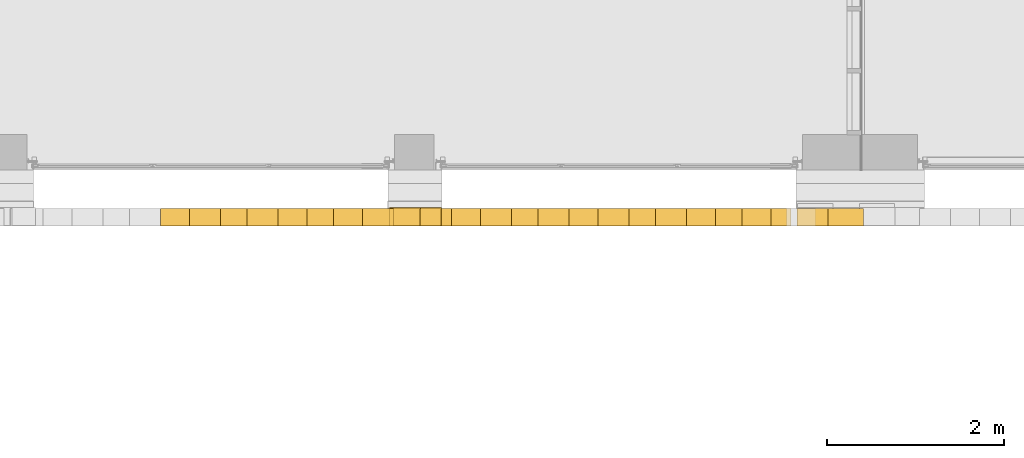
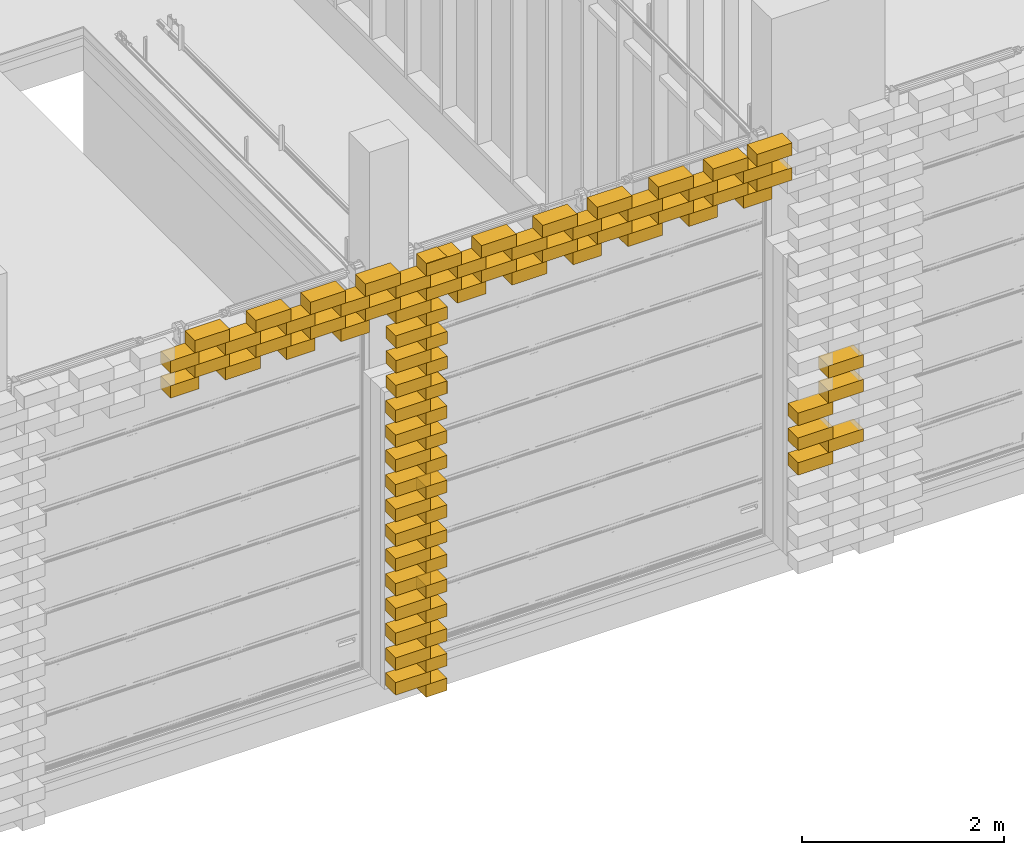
# One storey, part 54 of 62: 85 railings.
"""IFC2X3 building model written with IfcOpenShell, lengths in millimetres."""

from ifc_helpers import new_model, entity, si_unit, converted_unit, derived_unit, money_unit, direction, frame, origin_with_axes, place, context, subcontext, project, spatial, polyline, outline, extrude, material, type_object, element, save


model = new_model("IFC2X3")

# Units and contexts
model_context = context("Model", 3, precision=0.01, world=origin_with_axes(), true_north=direction((0.0, 1.0)))
body_context = subcontext(model_context, "Body", "Model", "MODEL_VIEW")
ifc_project = project(units=[si_unit("LENGTHUNIT", "METRE", prefix="MILLI"), si_unit("AREAUNIT", "SQUARE_METRE"), si_unit("VOLUMEUNIT", "CUBIC_METRE"), converted_unit("PLANEANGLEUNIT", "DEGREE", entity("IfcPlaneAngleMeasure", 0.0174532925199), si_unit("PLANEANGLEUNIT", "RADIAN"), dimensions=[0, 0, 0, 0, 0, 0, 0]), si_unit("SOLIDANGLEUNIT", "STERADIAN"), money_unit("EUR"), converted_unit("TIMEUNIT", "Year", entity("IfcTimeMeasure", 31556926.0), si_unit("TIMEUNIT", "SECOND"), dimensions=[0, 0, 1, 0, 0, 0, 0]), si_unit("MASSUNIT", "GRAM", prefix="KILO"), si_unit("THERMODYNAMICTEMPERATUREUNIT", "DEGREE_CELSIUS"), si_unit("LUMINOUSINTENSITYUNIT", "LUMEN"), si_unit("ENERGYUNIT", "JOULE", prefix="MEGA"), derived_unit("THERMALCONDUCTANCEUNIT", [(si_unit("POWERUNIT", "WATT"), 1), (si_unit("LENGTHUNIT", "METRE"), -1), (si_unit("THERMODYNAMICTEMPERATUREUNIT", "KELVIN"), -1)]), derived_unit("SPECIFICHEATCAPACITYUNIT", [(si_unit("ENERGYUNIT", "JOULE"), 1), (si_unit("MASSUNIT", "GRAM", prefix="KILO"), -1), (si_unit("THERMODYNAMICTEMPERATUREUNIT", "KELVIN"), -1)]), derived_unit("MASSDENSITYUNIT", [(si_unit("MASSUNIT", "GRAM", prefix="KILO"), 1), (si_unit("VOLUMEUNIT", "CUBIC_METRE"), -1)])], contexts=[model_context])

# Site, building, storey
site_placement = place(None, origin_with_axes())
site = spatial("IfcSite", under=ifc_project, at=site_placement, Name="KIRDE 14, ELVA", CompositionType="ELEMENT")
building_placement = place(site_placement, origin_with_axes())
building = spatial("IfcBuilding", under=site, at=building_placement, Name="PPA ja Päästeameti ühishoone", CompositionType="ELEMENT")
storey_placement = place(building_placement, origin_with_axes())
storey = spatial("IfcBuildingStorey", under=building, at=storey_placement, Name="Esimene korrus", CompositionType="ELEMENT", Elevation=0.0)

# Railings
ifc_material = material(Name="Air Space")
railing_type = type_object("IfcRailingType", Name="Air Space 200", PredefinedType="NOTDEFINED")
railing_1_placement = place(storey_placement, frame((33472.9681004, -431.000100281, 2150.0), z_axis=(0.0, 0.0, 1.0), x_axis=(1.0, -2.3283064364e-09, 0.0)))
element("IfcRailing", 1, at=railing_1_placement, inside=storey, type_object=railing_type, material=ifc_material, Name="plokk", PredefinedType="NOTDEFINED", context=body_context, shape_type="SweptSolid", body=[
    extrude(outline(polyline([(0.0, -200.0), (400.000000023, -200.0), (400.000000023, 0.0), (0.0, 0.0), (0.0, -200.0)])), origin_with_axes(), (0.0, 0.0, 1.0), 150.0),
])
railing_2_placement = place(storey_placement, frame((33122.9681001, -431.000100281, 1400.0), z_axis=(0.0, 0.0, 1.0), x_axis=(1.0, 0.0, 0.0)))
element("IfcRailing", 2, at=railing_2_placement, inside=storey, type_object=railing_type, material=ifc_material, Name="plokk", PredefinedType="NOTDEFINED", context=body_context, shape_type="SweptSolid", body=[
    extrude(outline(polyline([(0.0, -200.0), (400.000000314, -200.0), (400.000000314, 0.0), (0.0, 0.0), (0.0, -200.0)])), origin_with_axes(), (0.0, 0.0, 1.0), 150.0),
])
railing_3_placement = place(storey_placement, frame((33472.9681004, -431.000100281, 1850.0), z_axis=(0.0, 0.0, 1.0), x_axis=(1.0, -2.3283064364e-09, 0.0)))
element("IfcRailing", 3, at=railing_3_placement, inside=storey, type_object=railing_type, material=ifc_material, Name="plokk", PredefinedType="NOTDEFINED", context=body_context, shape_type="SweptSolid", body=[
    extrude(outline(polyline([(0.0, -200.0), (400.000000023, -200.0), (400.000000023, 0.0), (0.0, 0.0), (0.0, -200.0)])), origin_with_axes(), (0.0, 0.0, 1.0), 150.0),
])
railing_4_placement = place(storey_placement, frame((33122.9681001, -431.000100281, 1700.0), z_axis=(0.0, 0.0, 1.0), x_axis=(1.0, 0.0, 0.0)))
element("IfcRailing", 4, at=railing_4_placement, inside=storey, type_object=railing_type, material=ifc_material, Name="plokk", PredefinedType="NOTDEFINED", context=body_context, shape_type="SweptSolid", body=[
    extrude(outline(polyline([(0.0, -200.0), (400.000000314, -200.0), (400.000000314, 0.0), (0.0, 0.0), (0.0, -200.0)])), origin_with_axes(), (0.0, 0.0, 1.0), 150.0),
])
railing_5_placement = place(storey_placement, frame((28862.1727359, -431.000101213, 3200.0), z_axis=(0.0, 0.0, 1.0), x_axis=(1.0, 3.91312005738e-09, 0.0)))
element("IfcRailing", 5, at=railing_5_placement, inside=storey, type_object=railing_type, material=ifc_material, Name="plokk", PredefinedType="NOTDEFINED", context=body_context, shape_type="SweptSolid", body=[
    extrude(outline(polyline([(0.0, -200.0), (238.000000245, -200.0), (238.000000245, 0.0), (0.0, 0.0), (0.0, -200.0)])), origin_with_axes(), (0.0, 0.0, 1.0), 150.0),
])
railing_6_placement = place(storey_placement, frame((33472.9681004, -431.000100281, 1250.0), z_axis=(0.0, 0.0, 1.0), x_axis=(1.0, -2.3283064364e-09, 0.0)))
element("IfcRailing", 6, at=railing_6_placement, inside=storey, type_object=railing_type, material=ifc_material, Name="plokk", PredefinedType="NOTDEFINED", context=body_context, shape_type="SweptSolid", body=[
    extrude(outline(polyline([(0.0, -200.0), (400.000000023, -200.0), (400.000000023, 0.0), (0.0, 0.0), (0.0, -200.0)])), origin_with_axes(), (0.0, 0.0, 1.0), 150.0),
])
railing_7_placement = place(storey_placement, frame((33122.9681001, -431.000100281, 1100.0), z_axis=(0.0, 0.0, 1.0), x_axis=(1.0, 0.0, 0.0)))
element("IfcRailing", 7, at=railing_7_placement, inside=storey, type_object=railing_type, material=ifc_material, Name="plokk", PredefinedType="NOTDEFINED", context=body_context, shape_type="SweptSolid", body=[
    extrude(outline(polyline([(0.0, -200.0), (400.000000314, -200.0), (400.000000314, 0.0), (0.0, 0.0), (0.0, -200.0)])), origin_with_axes(), (0.0, 0.0, 1.0), 150.0),
])
railing_8_placement = place(storey_placement, frame((28512.1727357, -431.000101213, 50.0), z_axis=(0.0, 0.0, 1.0), x_axis=(1.0, -2.32830643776e-09, 0.0)))
element("IfcRailing", 8, at=railing_8_placement, inside=storey, type_object=railing_type, material=ifc_material, Name="plokk", PredefinedType="NOTDEFINED", context=body_context, shape_type="SweptSolid", body=[
    extrude(outline(polyline([(0.0, -200.0), (399.99999979, -200.0), (399.99999979, 0.0), (0.0, 0.0), (0.0, -200.0)])), origin_with_axes(), (0.0, 0.0, 1.0), 150.0),
])
railing_9_placement = place(storey_placement, frame((28865.7725499, -431.000101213, 4400.0), z_axis=(0.0, 0.0, 1.0), x_axis=(1.0, 3.91312005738e-09, 0.0)))
element("IfcRailing", 9, at=railing_9_placement, inside=storey, type_object=railing_type, material=ifc_material, Name="plokk", PredefinedType="NOTDEFINED", context=body_context, shape_type="SweptSolid", body=[
    extrude(outline(polyline([(0.0, -200.0), (238.000000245, -200.0), (238.000000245, 0.0), (0.0, 0.0), (0.0, -200.0)])), origin_with_axes(), (0.0, 0.0, 1.0), 150.0),
])
for number, where, z_axis, x_axis in (
    (10, (28518.7115339, -422.760599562, 4850.0), (0.0, 0.0, 1.0), (1.0, -2.32830643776e-09, 0.0)),
    (11, (28515.7725497, -431.000101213, 3950.0), (0.0, 0.0, 1.0), (1.0, -2.32830643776e-09, 0.0)),
    (12, (28515.7725497, -431.000101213, 3650.0), (0.0, 0.0, 1.0), (1.0, -2.32830643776e-09, 0.0)),
    (13, (28515.7725497, -431.000101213, 4250.0), (0.0, 0.0, 1.0), (1.0, -2.32830643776e-09, 0.0)),
):
    element("IfcRailing", number, at=place(storey_placement, frame(where, z_axis=z_axis, x_axis=x_axis)), inside=storey, type_object=railing_type, material=ifc_material, Name="plokk", PredefinedType="NOTDEFINED", context=body_context, shape_type="SweptSolid", body=[
        extrude(outline(polyline([(0.0, -200.0), (399.99999979, -200.0), (399.99999979, 0.0), (0.0, 0.0), (0.0, -200.0)])), origin_with_axes(), (0.0, 0.0, 1.0), 150.0),
    ])
for number, where, z_axis, x_axis in (
    (14, (28868.7115341, -422.760599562, 5000.0), (0.0, 0.0, 1.0), (1.0, 3.91312005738e-09, 0.0)),
    (15, (28865.7725499, -431.000101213, 3500.0), (0.0, 0.0, 1.0), (1.0, 3.91312005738e-09, 0.0)),
    (16, (28865.7725499, -431.000101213, 3800.0), (0.0, 0.0, 1.0), (1.0, 3.91312005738e-09, 0.0)),
    (17, (28865.7725499, -431.000101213, 4100.0), (0.0, 0.0, 1.0), (1.0, 3.91312005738e-09, 0.0)),
):
    element("IfcRailing", number, at=place(storey_placement, frame(where, z_axis=z_axis, x_axis=x_axis)), inside=storey, type_object=railing_type, material=ifc_material, Name="plokk", PredefinedType="NOTDEFINED", context=body_context, shape_type="SweptSolid", body=[
        extrude(outline(polyline([(0.0, -200.0), (238.000000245, -200.0), (238.000000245, 0.0), (0.0, 0.0), (0.0, -200.0)])), origin_with_axes(), (0.0, 0.0, 1.0), 150.0),
    ])
railing_10_placement = place(storey_placement, frame((32500.3254408, -431.000096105, 4850.0), z_axis=(0.0, 0.0, 1.0), x_axis=(1.0, 0.0, 0.0)))
element("IfcRailing", 18, at=railing_10_placement, inside=storey, type_object=railing_type, material=ifc_material, Name="plokk", PredefinedType="NOTDEFINED", context=body_context, shape_type="SweptSolid", body=[
    extrude(outline(polyline([(0.0, -200.0), (327.204635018, -200.0), (327.204635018, 0.0), (0.0, 0.0), (0.0, -200.0)])), origin_with_axes(), (0.0, 0.0, 1.0), 150.0),
])
railing_11_placement = place(storey_placement, frame((28515.7725497, -431.000101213, 4550.0), z_axis=(0.0, 0.0, 1.0), x_axis=(1.0, -2.32830643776e-09, 0.0)))
element("IfcRailing", 19, at=railing_11_placement, inside=storey, type_object=railing_type, material=ifc_material, Name="plokk", PredefinedType="NOTDEFINED", context=body_context, shape_type="SweptSolid", body=[
    extrude(outline(polyline([(0.0, -200.0), (399.99999979, -200.0), (399.99999979, 0.0), (0.0, 0.0), (0.0, -200.0)])), origin_with_axes(), (0.0, 0.0, 1.0), 150.0),
])
railing_12_placement = place(storey_placement, frame((26911.1208079, -431.000097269, 5000.0), z_axis=(0.0, 0.0, 1.0), x_axis=(1.0, -2.32830643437e-09, 0.0)))
element("IfcRailing", 20, at=railing_12_placement, inside=storey, type_object=railing_type, material=ifc_material, Name="plokk", PredefinedType="NOTDEFINED", context=body_context, shape_type="SweptSolid", body=[
    extrude(outline(polyline([(0.0, -200.0), (400.000000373, -200.0), (400.000000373, 0.0), (0.0, 0.0), (0.0, -200.0)])), origin_with_axes(), (0.0, 0.0, 1.0), 150.0),
])
railing_13_placement = place(storey_placement, frame((26561.1208084, -431.000099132, 4850.0), z_axis=(0.0, 0.0, 1.0), x_axis=(1.0, -2.32830643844e-09, 0.0)))
element("IfcRailing", 21, at=railing_13_placement, inside=storey, type_object=railing_type, material=ifc_material, Name="plokk", PredefinedType="NOTDEFINED", context=body_context, shape_type="SweptSolid", body=[
    extrude(outline(polyline([(0.0, -200.0), (399.999999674, -200.0), (399.999999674, 0.0), (0.0, 0.0), (0.0, -200.0)])), origin_with_axes(), (0.0, 0.0, 1.0), 150.0),
])
railing_14_placement = place(storey_placement, frame((27261.1208077, -431.0000982, 4550.0), z_axis=(0.0, 0.0, 1.0), x_axis=(1.0, 0.0, 0.0)))
element("IfcRailing", 22, at=railing_14_placement, inside=storey, type_object=railing_type, material=ifc_material, Name="plokk", PredefinedType="NOTDEFINED", context=body_context, shape_type="SweptSolid", body=[
    extrude(outline(polyline([(0.0, -200.0), (327.204635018, -200.0), (327.204635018, 0.0), (0.0, 0.0), (0.0, -200.0)])), origin_with_axes(), (0.0, 0.0, 1.0), 150.0),
])
railing_15_placement = place(storey_placement, frame((26911.1208079, -431.000097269, 4700.0), z_axis=(0.0, 0.0, 1.0), x_axis=(1.0, -2.32830643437e-09, 0.0)))
element("IfcRailing", 23, at=railing_15_placement, inside=storey, type_object=railing_type, material=ifc_material, Name="plokk", PredefinedType="NOTDEFINED", context=body_context, shape_type="SweptSolid", body=[
    extrude(outline(polyline([(0.0, -200.0), (400.000000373, -200.0), (400.000000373, 0.0), (0.0, 0.0), (0.0, -200.0)])), origin_with_axes(), (0.0, 0.0, 1.0), 150.0),
])
railing_16_placement = place(storey_placement, frame((26561.1208084, -431.000099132, 4550.0), z_axis=(0.0, 0.0, 1.0), x_axis=(1.0, -2.32830643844e-09, 0.0)))
element("IfcRailing", 24, at=railing_16_placement, inside=storey, type_object=railing_type, material=ifc_material, Name="plokk", PredefinedType="NOTDEFINED", context=body_context, shape_type="SweptSolid", body=[
    extrude(outline(polyline([(0.0, -200.0), (399.999999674, -200.0), (399.999999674, 0.0), (0.0, 0.0), (0.0, -200.0)])), origin_with_axes(), (0.0, 0.0, 1.0), 150.0),
])
railing_17_placement = place(storey_placement, frame((26211.1208067, -431.000095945, 5000.0), z_axis=(0.0, 0.0, 1.0), x_axis=(1.0, -2.32830643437e-09, 0.0)))
element("IfcRailing", 25, at=railing_17_placement, inside=storey, type_object=railing_type, material=ifc_material, Name="plokk", PredefinedType="NOTDEFINED", context=body_context, shape_type="SweptSolid", body=[
    extrude(outline(polyline([(0.0, -200.0), (400.000000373, -200.0), (400.000000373, 0.0), (0.0, 0.0), (0.0, -200.0)])), origin_with_axes(), (0.0, 0.0, 1.0), 150.0),
])
railing_18_placement = place(storey_placement, frame((25933.9161714, -431.000098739, 4850.0), z_axis=(0.0, 0.0, 1.0), x_axis=(1.0, 0.0, 0.0)))
element("IfcRailing", 26, at=railing_18_placement, inside=storey, type_object=railing_type, material=ifc_material, Name="plokk", PredefinedType="NOTDEFINED", context=body_context, shape_type="SweptSolid", body=[
    extrude(outline(polyline([(0.0, -200.0), (327.204635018, -200.0), (327.204635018, 0.0), (0.0, 0.0), (0.0, -200.0)])), origin_with_axes(), (0.0, 0.0, 1.0), 150.0),
])
railing_19_placement = place(storey_placement, frame((28862.1727359, -431.000101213, 2300.0), z_axis=(0.0, 0.0, 1.0), x_axis=(1.0, 3.91312005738e-09, 0.0)))
element("IfcRailing", 27, at=railing_19_placement, inside=storey, type_object=railing_type, material=ifc_material, Name="plokk", PredefinedType="NOTDEFINED", context=body_context, shape_type="SweptSolid", body=[
    extrude(outline(polyline([(0.0, -200.0), (238.000000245, -200.0), (238.000000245, 0.0), (0.0, 0.0), (0.0, -200.0)])), origin_with_axes(), (0.0, 0.0, 1.0), 150.0),
])
railing_20_placement = place(storey_placement, frame((27261.1208077, -431.0000982, 4850.0), z_axis=(0.0, 0.0, 1.0), x_axis=(1.0, 0.0, 0.0)))
element("IfcRailing", 28, at=railing_20_placement, inside=storey, type_object=railing_type, material=ifc_material, Name="plokk", PredefinedType="NOTDEFINED", context=body_context, shape_type="SweptSolid", body=[
    extrude(outline(polyline([(0.0, -200.0), (327.204635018, -200.0), (327.204635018, 0.0), (0.0, 0.0), (0.0, -200.0)])), origin_with_axes(), (0.0, 0.0, 1.0), 150.0),
])
railing_21_placement = place(storey_placement, frame((28862.1727359, -431.000101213, 500.0), z_axis=(0.0, 0.0, 1.0), x_axis=(1.0, 3.91312005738e-09, 0.0)))
element("IfcRailing", 29, at=railing_21_placement, inside=storey, type_object=railing_type, material=ifc_material, Name="plokk", PredefinedType="NOTDEFINED", context=body_context, shape_type="SweptSolid", body=[
    extrude(outline(polyline([(0.0, -200.0), (238.000000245, -200.0), (238.000000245, 0.0), (0.0, 0.0), (0.0, -200.0)])), origin_with_axes(), (0.0, 0.0, 1.0), 150.0),
])
railing_22_placement = place(storey_placement, frame((29845.9161702, -431.000097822, 4850.0), z_axis=(0.0, 0.0, 1.0), x_axis=(1.0, -2.32830643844e-09, 0.0)))
element("IfcRailing", 30, at=railing_22_placement, inside=storey, type_object=railing_type, material=ifc_material, Name="plokk", PredefinedType="NOTDEFINED", context=body_context, shape_type="SweptSolid", body=[
    extrude(outline(polyline([(0.0, -200.0), (399.999999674, -200.0), (399.999999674, 0.0), (0.0, 0.0), (0.0, -200.0)])), origin_with_axes(), (0.0, 0.0, 1.0), 150.0),
])
railing_23_placement = place(storey_placement, frame((27538.325443, -431.000095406, 4700.0), z_axis=(0.0, 0.0, 1.0), x_axis=(1.0, -2.32830643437e-09, 0.0)))
element("IfcRailing", 31, at=railing_23_placement, inside=storey, type_object=railing_type, material=ifc_material, Name="plokk", PredefinedType="NOTDEFINED", context=body_context, shape_type="SweptSolid", body=[
    extrude(outline(polyline([(0.0, -200.0), (400.000000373, -200.0), (400.000000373, 0.0), (0.0, 0.0), (0.0, -200.0)])), origin_with_axes(), (0.0, 0.0, 1.0), 150.0),
])
for number, where, z_axis, x_axis in (
    (32, (28862.1727359, -431.000101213, 800.0), (0.0, 0.0, 1.0), (1.0, 3.91312005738e-09, 0.0)),
    (33, (28862.1727359, -431.000101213, 3500.0), (0.0, 0.0, 1.0), (1.0, 3.91312005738e-09, 0.0)),
    (34, (28862.1727359, -431.000101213, 1100.0), (0.0, 0.0, 1.0), (1.0, 3.91312005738e-09, 0.0)),
):
    element("IfcRailing", number, at=place(storey_placement, frame(where, z_axis=z_axis, x_axis=x_axis)), inside=storey, type_object=railing_type, material=ifc_material, Name="plokk", PredefinedType="NOTDEFINED", context=body_context, shape_type="SweptSolid", body=[
        extrude(outline(polyline([(0.0, -200.0), (238.000000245, -200.0), (238.000000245, 0.0), (0.0, 0.0), (0.0, -200.0)])), origin_with_axes(), (0.0, 0.0, 1.0), 150.0),
    ])
for number, where, z_axis, x_axis in (
    (35, (28165.530078, -431.000095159, 5000.0), (0.0, 0.0, 1.0), (1.0, -2.32830643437e-09, 0.0)),
    (36, (28165.530078, -431.000095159, 4700.0), (0.0, 0.0, 1.0), (1.0, -2.32830643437e-09, 0.0)),
):
    element("IfcRailing", number, at=place(storey_placement, frame(where, z_axis=z_axis, x_axis=x_axis)), inside=storey, type_object=railing_type, material=ifc_material, Name="plokk", PredefinedType="NOTDEFINED", context=body_context, shape_type="SweptSolid", body=[
        extrude(outline(polyline([(0.0, -200.0), (400.000000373, -200.0), (400.000000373, 0.0), (0.0, 0.0), (0.0, -200.0)])), origin_with_axes(), (0.0, 0.0, 1.0), 150.0),
    ])
railing_24_placement = place(storey_placement, frame((27888.3254427, -431.000097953, 4850.0), z_axis=(0.0, 0.0, 1.0), x_axis=(1.0, 0.0, 0.0)))
element("IfcRailing", 37, at=railing_24_placement, inside=storey, type_object=railing_type, material=ifc_material, Name="plokk", PredefinedType="NOTDEFINED", context=body_context, shape_type="SweptSolid", body=[
    extrude(outline(polyline([(0.0, -200.0), (327.204635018, -200.0), (327.204635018, 0.0), (0.0, 0.0), (0.0, -200.0)])), origin_with_axes(), (0.0, 0.0, 1.0), 150.0),
])
for number, where, z_axis, x_axis in (
    (38, (28862.1727359, -431.000101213, 2600.0), (0.0, 0.0, 1.0), (1.0, 3.91312005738e-09, 0.0)),
    (39, (28862.1727359, -431.000101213, 2900.0), (0.0, 0.0, 1.0), (1.0, 3.91312005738e-09, 0.0)),
):
    element("IfcRailing", number, at=place(storey_placement, frame(where, z_axis=z_axis, x_axis=x_axis)), inside=storey, type_object=railing_type, material=ifc_material, Name="plokk", PredefinedType="NOTDEFINED", context=body_context, shape_type="SweptSolid", body=[
        extrude(outline(polyline([(0.0, -200.0), (238.000000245, -200.0), (238.000000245, 0.0), (0.0, 0.0), (0.0, -200.0)])), origin_with_axes(), (0.0, 0.0, 1.0), 150.0),
    ])
railing_25_placement = place(storey_placement, frame((25933.9161714, -431.000098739, 4550.0), z_axis=(0.0, 0.0, 1.0), x_axis=(1.0, 0.0, 0.0)))
element("IfcRailing", 40, at=railing_25_placement, inside=storey, type_object=railing_type, material=ifc_material, Name="plokk", PredefinedType="NOTDEFINED", context=body_context, shape_type="SweptSolid", body=[
    extrude(outline(polyline([(0.0, -200.0), (327.204635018, -200.0), (327.204635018, 0.0), (0.0, 0.0), (0.0, -200.0)])), origin_with_axes(), (0.0, 0.0, 1.0), 150.0),
])
for number, where, z_axis, x_axis in (
    (41, (31523.120806, -431.000095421, 5000.0), (0.0, 0.0, 1.0), (1.0, -2.32830643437e-09, 0.0)),
    (42, (26211.1208067, -431.000095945, 4700.0), (0.0, 0.0, 1.0), (1.0, -2.32830643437e-09, 0.0)),
):
    element("IfcRailing", number, at=place(storey_placement, frame(where, z_axis=z_axis, x_axis=x_axis)), inside=storey, type_object=railing_type, material=ifc_material, Name="plokk", PredefinedType="NOTDEFINED", context=body_context, shape_type="SweptSolid", body=[
        extrude(outline(polyline([(0.0, -200.0), (400.000000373, -200.0), (400.000000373, 0.0), (0.0, 0.0), (0.0, -200.0)])), origin_with_axes(), (0.0, 0.0, 1.0), 150.0),
    ])
for number, where, z_axis, x_axis in (
    (43, (28512.1727357, -431.000101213, 1250.0), (0.0, 0.0, 1.0), (1.0, -2.32830643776e-09, 0.0)),
    (44, (28512.1727357, -431.000101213, 1550.0), (0.0, 0.0, 1.0), (1.0, -2.32830643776e-09, 0.0)),
    (45, (28512.1727357, -431.000101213, 350.0), (0.0, 0.0, 1.0), (1.0, -2.32830643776e-09, 0.0)),
    (46, (28512.1727357, -431.000101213, 650.0), (0.0, 0.0, 1.0), (1.0, -2.32830643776e-09, 0.0)),
    (47, (28512.1727357, -431.000101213, 950.0), (0.0, 0.0, 1.0), (1.0, -2.32830643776e-09, 0.0)),
    (48, (28512.1727357, -431.000101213, 1850.0), (0.0, 0.0, 1.0), (1.0, -2.32830643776e-09, 0.0)),
    (49, (28512.1727357, -431.000101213, 2150.0), (0.0, 0.0, 1.0), (1.0, -2.32830643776e-09, 0.0)),
):
    element("IfcRailing", number, at=place(storey_placement, frame(where, z_axis=z_axis, x_axis=x_axis)), inside=storey, type_object=railing_type, material=ifc_material, Name="plokk", PredefinedType="NOTDEFINED", context=body_context, shape_type="SweptSolid", body=[
        extrude(outline(polyline([(0.0, -200.0), (399.99999979, -200.0), (399.99999979, 0.0), (0.0, 0.0), (0.0, -200.0)])), origin_with_axes(), (0.0, 0.0, 1.0), 150.0),
    ])
for number, where, z_axis, x_axis in (
    (50, (28862.1727359, -431.000101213, 1400.0), (0.0, 0.0, 1.0), (1.0, 3.91312005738e-09, 0.0)),
    (51, (28862.1727359, -431.000101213, 1700.0), (0.0, 0.0, 1.0), (1.0, 3.91312005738e-09, 0.0)),
    (52, (28862.1727359, -431.000101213, 2000.0), (0.0, 0.0, 1.0), (1.0, 3.91312005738e-09, 0.0)),
    (53, (28862.1727359, -431.000101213, -100.0), (0.0, 0.0, 1.0), (1.0, 3.91312005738e-09, 0.0)),
    (54, (28862.1727359, -431.000101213, 200.0), (0.0, 0.0, 1.0), (1.0, 3.91312005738e-09, 0.0)),
    (55, (28862.1727359, -431.000101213, 2300.0), (0.0, 0.0, 1.0), (1.0, 3.91312005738e-09, 0.0)),
):
    element("IfcRailing", number, at=place(storey_placement, frame(where, z_axis=z_axis, x_axis=x_axis)), inside=storey, type_object=railing_type, material=ifc_material, Name="plokk", PredefinedType="NOTDEFINED", context=body_context, shape_type="SweptSolid", body=[
        extrude(outline(polyline([(0.0, -200.0), (238.000000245, -200.0), (238.000000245, 0.0), (0.0, 0.0), (0.0, -200.0)])), origin_with_axes(), (0.0, 0.0, 1.0), 150.0),
    ])
railing_26_placement = place(storey_placement, frame((27888.3254427, -431.000097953, 4550.0), z_axis=(0.0, 0.0, 1.0), x_axis=(1.0, 0.0, 0.0)))
element("IfcRailing", 56, at=railing_26_placement, inside=storey, type_object=railing_type, material=ifc_material, Name="plokk", PredefinedType="NOTDEFINED", context=body_context, shape_type="SweptSolid", body=[
    extrude(outline(polyline([(0.0, -200.0), (327.204635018, -200.0), (327.204635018, 0.0), (0.0, 0.0), (0.0, -200.0)])), origin_with_axes(), (0.0, 0.0, 1.0), 150.0),
])
railing_27_placement = place(storey_placement, frame((28862.1727359, -431.000101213, 1100.0), z_axis=(0.0, 0.0, 1.0), x_axis=(1.0, 3.91312005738e-09, 0.0)))
element("IfcRailing", 57, at=railing_27_placement, inside=storey, type_object=railing_type, material=ifc_material, Name="plokk", PredefinedType="NOTDEFINED", context=body_context, shape_type="SweptSolid", body=[
    extrude(outline(polyline([(0.0, -200.0), (238.000000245, -200.0), (238.000000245, 0.0), (0.0, 0.0), (0.0, -200.0)])), origin_with_axes(), (0.0, 0.0, 1.0), 150.0),
])
for number, where, z_axis, x_axis in (
    (58, (28512.1727357, -431.000101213, 3350.0), (0.0, 0.0, 1.0), (1.0, -2.32830643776e-09, 0.0)),
    (59, (28512.1727357, -431.000101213, 3050.0), (0.0, 0.0, 1.0), (1.0, -2.32830643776e-09, 0.0)),
    (60, (28512.1727357, -431.000101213, 2750.0), (0.0, 0.0, 1.0), (1.0, -2.32830643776e-09, 0.0)),
    (61, (28512.1727357, -431.000101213, 2450.0), (0.0, 0.0, 1.0), (1.0, -2.32830643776e-09, 0.0)),
):
    element("IfcRailing", number, at=place(storey_placement, frame(where, z_axis=z_axis, x_axis=x_axis)), inside=storey, type_object=railing_type, material=ifc_material, Name="plokk", PredefinedType="NOTDEFINED", context=body_context, shape_type="SweptSolid", body=[
        extrude(outline(polyline([(0.0, -200.0), (399.99999979, -200.0), (399.99999979, 0.0), (0.0, 0.0), (0.0, -200.0)])), origin_with_axes(), (0.0, 0.0, 1.0), 150.0),
    ])
for number, where, z_axis, x_axis in (
    (62, (27538.325443, -431.000095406, 5000.0), (0.0, 0.0, 1.0), (1.0, -2.32830643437e-09, 0.0)),
    (63, (32654.6244146, -431.000093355, 5000.0), (0.0, 0.0, 1.0), (1.0, -2.32830643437e-09, 0.0)),
    (64, (32654.6244146, -431.000093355, 4700.0), (0.0, 0.0, 1.0), (1.0, -2.32830643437e-09, 0.0)),
):
    element("IfcRailing", number, at=place(storey_placement, frame(where, z_axis=z_axis, x_axis=x_axis)), inside=storey, type_object=railing_type, material=ifc_material, Name="plokk", PredefinedType="NOTDEFINED", context=body_context, shape_type="SweptSolid", body=[
        extrude(outline(polyline([(0.0, -200.0), (400.000000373, -200.0), (400.000000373, 0.0), (0.0, 0.0), (0.0, -200.0)])), origin_with_axes(), (0.0, 0.0, 1.0), 150.0),
    ])
railing_28_placement = place(storey_placement, frame((32500.3254408, -431.000096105, 4550.0), z_axis=(0.0, 0.0, 1.0), x_axis=(1.0, 0.0, 0.0)))
element("IfcRailing", 65, at=railing_28_placement, inside=storey, type_object=railing_type, material=ifc_material, Name="plokk", PredefinedType="NOTDEFINED", context=body_context, shape_type="SweptSolid", body=[
    extrude(outline(polyline([(0.0, -200.0), (327.204635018, -200.0), (327.204635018, 0.0), (0.0, 0.0), (0.0, -200.0)])), origin_with_axes(), (0.0, 0.0, 1.0), 150.0),
])
railing_29_placement = place(storey_placement, frame((32150.3254411, -431.000093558, 5000.0), z_axis=(0.0, 0.0, 1.0), x_axis=(1.0, -2.32830643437e-09, 0.0)))
element("IfcRailing", 66, at=railing_29_placement, inside=storey, type_object=railing_type, material=ifc_material, Name="plokk", PredefinedType="NOTDEFINED", context=body_context, shape_type="SweptSolid", body=[
    extrude(outline(polyline([(0.0, -200.0), (400.000000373, -200.0), (400.000000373, 0.0), (0.0, 0.0), (0.0, -200.0)])), origin_with_axes(), (0.0, 0.0, 1.0), 150.0),
])
railing_30_placement = place(storey_placement, frame((31873.1208057, -431.000096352, 4850.0), z_axis=(0.0, 0.0, 1.0), x_axis=(1.0, 0.0, 0.0)))
element("IfcRailing", 67, at=railing_30_placement, inside=storey, type_object=railing_type, material=ifc_material, Name="plokk", PredefinedType="NOTDEFINED", context=body_context, shape_type="SweptSolid", body=[
    extrude(outline(polyline([(0.0, -200.0), (327.204635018, -200.0), (327.204635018, 0.0), (0.0, 0.0), (0.0, -200.0)])), origin_with_axes(), (0.0, 0.0, 1.0), 150.0),
])
railing_31_placement = place(storey_placement, frame((31173.1208065, -431.000097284, 4850.0), z_axis=(0.0, 0.0, 1.0), x_axis=(1.0, -2.32830643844e-09, 0.0)))
element("IfcRailing", 68, at=railing_31_placement, inside=storey, type_object=railing_type, material=ifc_material, Name="plokk", PredefinedType="NOTDEFINED", context=body_context, shape_type="SweptSolid", body=[
    extrude(outline(polyline([(0.0, -200.0), (399.999999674, -200.0), (399.999999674, 0.0), (0.0, 0.0), (0.0, -200.0)])), origin_with_axes(), (0.0, 0.0, 1.0), 150.0),
])
railing_32_placement = place(storey_placement, frame((32150.3254411, -431.000093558, 4700.0), z_axis=(0.0, 0.0, 1.0), x_axis=(1.0, -2.32830643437e-09, 0.0)))
element("IfcRailing", 69, at=railing_32_placement, inside=storey, type_object=railing_type, material=ifc_material, Name="plokk", PredefinedType="NOTDEFINED", context=body_context, shape_type="SweptSolid", body=[
    extrude(outline(polyline([(0.0, -200.0), (400.000000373, -200.0), (400.000000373, 0.0), (0.0, 0.0), (0.0, -200.0)])), origin_with_axes(), (0.0, 0.0, 1.0), 150.0),
])
railing_33_placement = place(storey_placement, frame((31873.1208057, -431.000096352, 4550.0), z_axis=(0.0, 0.0, 1.0), x_axis=(1.0, 0.0, 0.0)))
element("IfcRailing", 70, at=railing_33_placement, inside=storey, type_object=railing_type, material=ifc_material, Name="plokk", PredefinedType="NOTDEFINED", context=body_context, shape_type="SweptSolid", body=[
    extrude(outline(polyline([(0.0, -200.0), (327.204635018, -200.0), (327.204635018, 0.0), (0.0, 0.0), (0.0, -200.0)])), origin_with_axes(), (0.0, 0.0, 1.0), 150.0),
])
railing_34_placement = place(storey_placement, frame((31523.120806, -431.000095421, 4700.0), z_axis=(0.0, 0.0, 1.0), x_axis=(1.0, -2.32830643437e-09, 0.0)))
element("IfcRailing", 71, at=railing_34_placement, inside=storey, type_object=railing_type, material=ifc_material, Name="plokk", PredefinedType="NOTDEFINED", context=body_context, shape_type="SweptSolid", body=[
    extrude(outline(polyline([(0.0, -200.0), (400.000000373, -200.0), (400.000000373, 0.0), (0.0, 0.0), (0.0, -200.0)])), origin_with_axes(), (0.0, 0.0, 1.0), 150.0),
])
railing_35_placement = place(storey_placement, frame((31173.1208065, -431.000097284, 4550.0), z_axis=(0.0, 0.0, 1.0), x_axis=(1.0, -2.32830643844e-09, 0.0)))
element("IfcRailing", 72, at=railing_35_placement, inside=storey, type_object=railing_type, material=ifc_material, Name="plokk", PredefinedType="NOTDEFINED", context=body_context, shape_type="SweptSolid", body=[
    extrude(outline(polyline([(0.0, -200.0), (399.999999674, -200.0), (399.999999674, 0.0), (0.0, 0.0), (0.0, -200.0)])), origin_with_axes(), (0.0, 0.0, 1.0), 150.0),
])
railing_36_placement = place(storey_placement, frame((30823.1208048, -431.000094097, 5000.0), z_axis=(0.0, 0.0, 1.0), x_axis=(1.0, -2.32830643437e-09, 0.0)))
element("IfcRailing", 73, at=railing_36_placement, inside=storey, type_object=railing_type, material=ifc_material, Name="plokk", PredefinedType="NOTDEFINED", context=body_context, shape_type="SweptSolid", body=[
    extrude(outline(polyline([(0.0, -200.0), (400.000000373, -200.0), (400.000000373, 0.0), (0.0, 0.0), (0.0, -200.0)])), origin_with_axes(), (0.0, 0.0, 1.0), 150.0),
])
railing_37_placement = place(storey_placement, frame((30545.9161695, -431.000096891, 4850.0), z_axis=(0.0, 0.0, 1.0), x_axis=(1.0, 0.0, 0.0)))
element("IfcRailing", 74, at=railing_37_placement, inside=storey, type_object=railing_type, material=ifc_material, Name="plokk", PredefinedType="NOTDEFINED", context=body_context, shape_type="SweptSolid", body=[
    extrude(outline(polyline([(0.0, -200.0), (327.204635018, -200.0), (327.204635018, 0.0), (0.0, 0.0), (0.0, -200.0)])), origin_with_axes(), (0.0, 0.0, 1.0), 150.0),
])
for number, where, z_axis, x_axis in (
    (75, (30195.9161698, -431.000095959, 5000.0), (0.0, 0.0, 1.0), (1.0, -2.32830643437e-09, 0.0)),
    (76, (30823.1208048, -431.000094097, 4700.0), (0.0, 0.0, 1.0), (1.0, -2.32830643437e-09, 0.0)),
):
    element("IfcRailing", number, at=place(storey_placement, frame(where, z_axis=z_axis, x_axis=x_axis)), inside=storey, type_object=railing_type, material=ifc_material, Name="plokk", PredefinedType="NOTDEFINED", context=body_context, shape_type="SweptSolid", body=[
        extrude(outline(polyline([(0.0, -200.0), (400.000000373, -200.0), (400.000000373, 0.0), (0.0, 0.0), (0.0, -200.0)])), origin_with_axes(), (0.0, 0.0, 1.0), 150.0),
    ])
railing_38_placement = place(storey_placement, frame((30545.9161695, -431.000096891, 4550.0), z_axis=(0.0, 0.0, 1.0), x_axis=(1.0, 0.0, 0.0)))
element("IfcRailing", 77, at=railing_38_placement, inside=storey, type_object=railing_type, material=ifc_material, Name="plokk", PredefinedType="NOTDEFINED", context=body_context, shape_type="SweptSolid", body=[
    extrude(outline(polyline([(0.0, -200.0), (327.204635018, -200.0), (327.204635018, 0.0), (0.0, 0.0), (0.0, -200.0)])), origin_with_axes(), (0.0, 0.0, 1.0), 150.0),
])
railing_39_placement = place(storey_placement, frame((30195.9161698, -431.000095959, 4700.0), z_axis=(0.0, 0.0, 1.0), x_axis=(1.0, -2.32830643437e-09, 0.0)))
element("IfcRailing", 78, at=railing_39_placement, inside=storey, type_object=railing_type, material=ifc_material, Name="plokk", PredefinedType="NOTDEFINED", context=body_context, shape_type="SweptSolid", body=[
    extrude(outline(polyline([(0.0, -200.0), (400.000000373, -200.0), (400.000000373, 0.0), (0.0, 0.0), (0.0, -200.0)])), origin_with_axes(), (0.0, 0.0, 1.0), 150.0),
])
railing_40_placement = place(storey_placement, frame((29845.9161702, -431.000097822, 4550.0), z_axis=(0.0, 0.0, 1.0), x_axis=(1.0, -2.32830643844e-09, 0.0)))
element("IfcRailing", 79, at=railing_40_placement, inside=storey, type_object=railing_type, material=ifc_material, Name="plokk", PredefinedType="NOTDEFINED", context=body_context, shape_type="SweptSolid", body=[
    extrude(outline(polyline([(0.0, -200.0), (399.999999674, -200.0), (399.999999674, 0.0), (0.0, 0.0), (0.0, -200.0)])), origin_with_axes(), (0.0, 0.0, 1.0), 150.0),
])
railing_41_placement = place(storey_placement, frame((29495.9161686, -431.000094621, 5000.0), z_axis=(0.0, 0.0, 1.0), x_axis=(1.0, -2.32830643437e-09, 0.0)))
element("IfcRailing", 80, at=railing_41_placement, inside=storey, type_object=railing_type, material=ifc_material, Name="plokk", PredefinedType="NOTDEFINED", context=body_context, shape_type="SweptSolid", body=[
    extrude(outline(polyline([(0.0, -200.0), (400.000000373, -200.0), (400.000000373, 0.0), (0.0, 0.0), (0.0, -200.0)])), origin_with_axes(), (0.0, 0.0, 1.0), 150.0),
])
railing_42_placement = place(storey_placement, frame((29218.7115333, -431.000097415, 4850.0), z_axis=(0.0, 0.0, 1.0), x_axis=(1.0, 0.0, 0.0)))
element("IfcRailing", 81, at=railing_42_placement, inside=storey, type_object=railing_type, material=ifc_material, Name="plokk", PredefinedType="NOTDEFINED", context=body_context, shape_type="SweptSolid", body=[
    extrude(outline(polyline([(0.0, -200.0), (327.204635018, -200.0), (327.204635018, 0.0), (0.0, 0.0), (0.0, -200.0)])), origin_with_axes(), (0.0, 0.0, 1.0), 150.0),
])
for number, where, z_axis, x_axis in (
    (82, (28868.7115335, -431.000096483, 5000.0), (0.0, 0.0, 1.0), (1.0, -2.32830643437e-09, 0.0)),
    (83, (29495.9161686, -431.000094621, 4700.0), (0.0, 0.0, 1.0), (1.0, -2.32830643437e-09, 0.0)),
):
    element("IfcRailing", number, at=place(storey_placement, frame(where, z_axis=z_axis, x_axis=x_axis)), inside=storey, type_object=railing_type, material=ifc_material, Name="plokk", PredefinedType="NOTDEFINED", context=body_context, shape_type="SweptSolid", body=[
        extrude(outline(polyline([(0.0, -200.0), (400.000000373, -200.0), (400.000000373, 0.0), (0.0, 0.0), (0.0, -200.0)])), origin_with_axes(), (0.0, 0.0, 1.0), 150.0),
    ])
railing_43_placement = place(storey_placement, frame((29218.7115333, -431.000097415, 4550.0), z_axis=(0.0, 0.0, 1.0), x_axis=(1.0, 0.0, 0.0)))
element("IfcRailing", 84, at=railing_43_placement, inside=storey, type_object=railing_type, material=ifc_material, Name="plokk", PredefinedType="NOTDEFINED", context=body_context, shape_type="SweptSolid", body=[
    extrude(outline(polyline([(0.0, -200.0), (327.204635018, -200.0), (327.204635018, 0.0), (0.0, 0.0), (0.0, -200.0)])), origin_with_axes(), (0.0, 0.0, 1.0), 150.0),
])
railing_44_placement = place(storey_placement, frame((28868.7115335, -431.000096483, 4700.0), z_axis=(0.0, 0.0, 1.0), x_axis=(1.0, -2.32830643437e-09, 0.0)))
element("IfcRailing", 85, at=railing_44_placement, inside=storey, type_object=railing_type, material=ifc_material, Name="plokk", PredefinedType="NOTDEFINED", context=body_context, shape_type="SweptSolid", body=[
    extrude(outline(polyline([(0.0, -200.0), (400.000000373, -200.0), (400.000000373, 0.0), (0.0, 0.0), (0.0, -200.0)])), origin_with_axes(), (0.0, 0.0, 1.0), 150.0),
])

save(model, "model.ifc")
